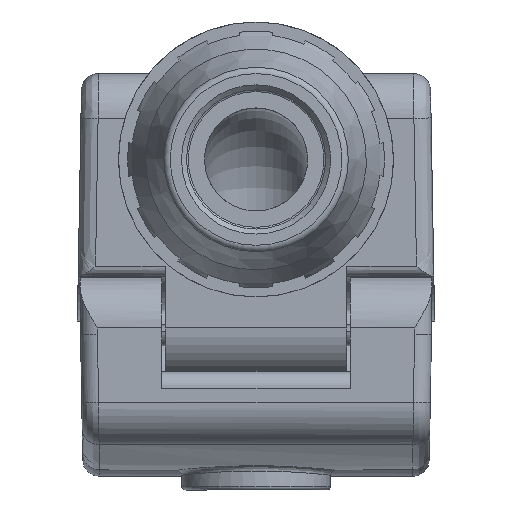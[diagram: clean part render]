
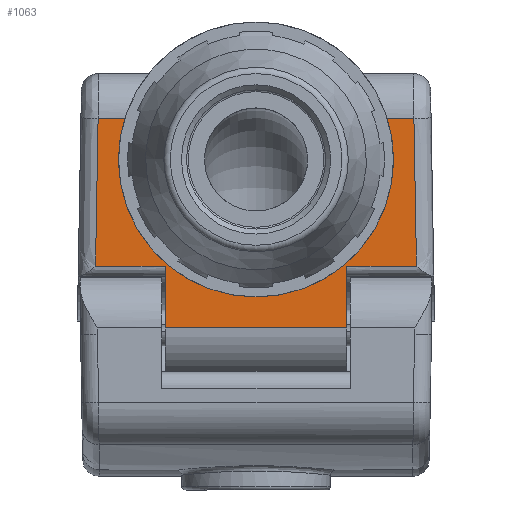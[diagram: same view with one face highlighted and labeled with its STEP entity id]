
A CAD part, front view. The second image highlights one B-rep face of the part: STEP entity #1063.
In plain terms, the highlighted planar face has unit normal (0, -1, 0).
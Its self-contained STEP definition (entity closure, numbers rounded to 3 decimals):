
#1063 = ADVANCED_FACE( '', ( #2243 ), #2244, .F. );
#2243 = FACE_OUTER_BOUND( '', #12464, .T. );
#2244 = PLANE( '', #12465 );
#12464 = EDGE_LOOP( '', ( #16502, #16503, #16504, #16505, #16506, #16507, #16508, #16509, #16510, #16511 ) );
#12465 = AXIS2_PLACEMENT_3D( '', #16512, #16513, #16514 );
#16502 = ORIENTED_EDGE( '', *, *, #17492, .T. );
#16503 = ORIENTED_EDGE( '', *, *, #18596, .T. );
#16504 = ORIENTED_EDGE( '', *, *, #17804, .T. );
#16505 = ORIENTED_EDGE( '', *, *, #18597, .F. );
#16506 = ORIENTED_EDGE( '', *, *, #17682, .F. );
#16507 = ORIENTED_EDGE( '', *, *, #18536, .F. );
#16508 = ORIENTED_EDGE( '', *, *, #18247, .T. );
#16509 = ORIENTED_EDGE( '', *, *, #17810, .T. );
#16510 = ORIENTED_EDGE( '', *, *, #17589, .F. );
#16511 = ORIENTED_EDGE( '', *, *, #17848, .F. );
#16512 = CARTESIAN_POINT( '', ( -23.024, 17.363, 11.196 ) );
#16513 = DIRECTION( '', ( 0., 1., 0. ) );
#16514 = DIRECTION( '', ( 0., 0., 1. ) );
#17492 = EDGE_CURVE( '', #18829, #18830, #18831, .F. );
#17589 = EDGE_CURVE( '', #19003, #19004, #19005, .T. );
#17682 = EDGE_CURVE( '', #19159, #19161, #19162, .T. );
#17804 = EDGE_CURVE( '', #19361, #19362, #19363, .T. );
#17810 = EDGE_CURVE( '', #19372, #19004, #19373, .T. );
#17848 = EDGE_CURVE( '', #18829, #19003, #19433, .T. );
#18247 = EDGE_CURVE( '', #20045, #19372, #20046, .T. );
#18536 = EDGE_CURVE( '', #20045, #19159, #20423, .T. );
#18596 = EDGE_CURVE( '', #18830, #19361, #20495, .T. );
#18597 = EDGE_CURVE( '', #19161, #19362, #20496, .T. );
#18829 = VERTEX_POINT( '', #20800 );
#18830 = VERTEX_POINT( '', #20801 );
#18831 = CIRCLE( '', #20802, 20.36 );
#19003 = VERTEX_POINT( '', #21785 );
#19004 = VERTEX_POINT( '', #21786 );
#19005 = LINE( '', #21787, #21788 );
#19159 = VERTEX_POINT( '', #22440 );
#19161 = VERTEX_POINT( '', #22443 );
#19162 = LINE( '', #22444, #22445 );
#19361 = VERTEX_POINT( '', #23758 );
#19362 = VERTEX_POINT( '', #23759 );
#19363 = LINE( '', #23760, #23761 );
#19372 = VERTEX_POINT( '', #23825 );
#19373 = LINE( '', #23826, #23827 );
#19433 = LINE( '', #24036, #24037 );
#20045 = VERTEX_POINT( '', #26708 );
#20046 = LINE( '', #26709, #26710 );
#20423 = LINE( '', #28638, #28639 );
#20495 = LINE( '', #28797, #28798 );
#20496 = LINE( '', #28799, #28800 );
#20800 = CARTESIAN_POINT( '', ( 30.784, 17.363, 42.248 ) );
#20801 = CARTESIAN_POINT( '', ( -8.06, 17.363, 42.248 ) );
#20802 = AXIS2_PLACEMENT_3D( '', #29496, #29497, #29498 );
#21785 = CARTESIAN_POINT( '', ( 34.743, 17.363, 42.248 ) );
#21786 = CARTESIAN_POINT( '', ( 35.125, 17.363, 20.361 ) );
#21787 = CARTESIAN_POINT( '', ( 34.743, 17.363, 42.248 ) );
#21788 = VECTOR( '', #29594, 1000. );
#22440 = CARTESIAN_POINT( '', ( -2.076, 17.363, 11.199 ) );
#22443 = CARTESIAN_POINT( '', ( -2.076, 17.363, 20.361 ) );
#22444 = CARTESIAN_POINT( '', ( -2.076, 17.363, -41.639 ) );
#22445 = VECTOR( '', #29719, 1000. );
#23758 = CARTESIAN_POINT( '', ( -12.019, 17.363, 42.248 ) );
#23759 = CARTESIAN_POINT( '', ( -12.401, 17.363, 20.361 ) );
#23760 = CARTESIAN_POINT( '', ( -12.019, 17.363, 42.248 ) );
#23761 = VECTOR( '', #29870, 1000. );
#23825 = CARTESIAN_POINT( '', ( 24.799, 17.363, 20.361 ) );
#23826 = CARTESIAN_POINT( '', ( 24.799, 17.363, 20.361 ) );
#23827 = VECTOR( '', #29875, 1000. );
#24036 = CARTESIAN_POINT( '', ( 11.362, 17.363, 42.248 ) );
#24037 = VECTOR( '', #29926, 1000. );
#26708 = CARTESIAN_POINT( '', ( 24.799, 17.363, 11.199 ) );
#26709 = CARTESIAN_POINT( '', ( 24.799, 17.363, -41.639 ) );
#26710 = VECTOR( '', #30431, 1000. );
#28638 = CARTESIAN_POINT( '', ( 11.362, 17.363, 11.199 ) );
#28639 = VECTOR( '', #30691, 1000. );
#28797 = CARTESIAN_POINT( '', ( 11.362, 17.363, 42.248 ) );
#28798 = VECTOR( '', #30754, 1000. );
#28799 = CARTESIAN_POINT( '', ( -2.076, 17.363, 20.361 ) );
#28800 = VECTOR( '', #30755, 1000. );
#29496 = CARTESIAN_POINT( '', ( 11.362, 17.363, 36.14 ) );
#29497 = DIRECTION( '', ( 0., -1., 0. ) );
#29498 = DIRECTION( '', ( 0., 0., 1. ) );
#29594 = DIRECTION( '', ( 0.017, 0., -1. ) );
#29719 = DIRECTION( '', ( 0., 0., 1. ) );
#29870 = DIRECTION( '', ( -0.017, 0., -1. ) );
#29875 = DIRECTION( '', ( 1., 0., 0. ) );
#29926 = DIRECTION( '', ( 1., 0., 0. ) );
#30431 = DIRECTION( '', ( 0., 0., 1. ) );
#30691 = DIRECTION( '', ( -1., 0., 0. ) );
#30754 = DIRECTION( '', ( -1., 0., 0. ) );
#30755 = DIRECTION( '', ( -1., 0., 0. ) );
